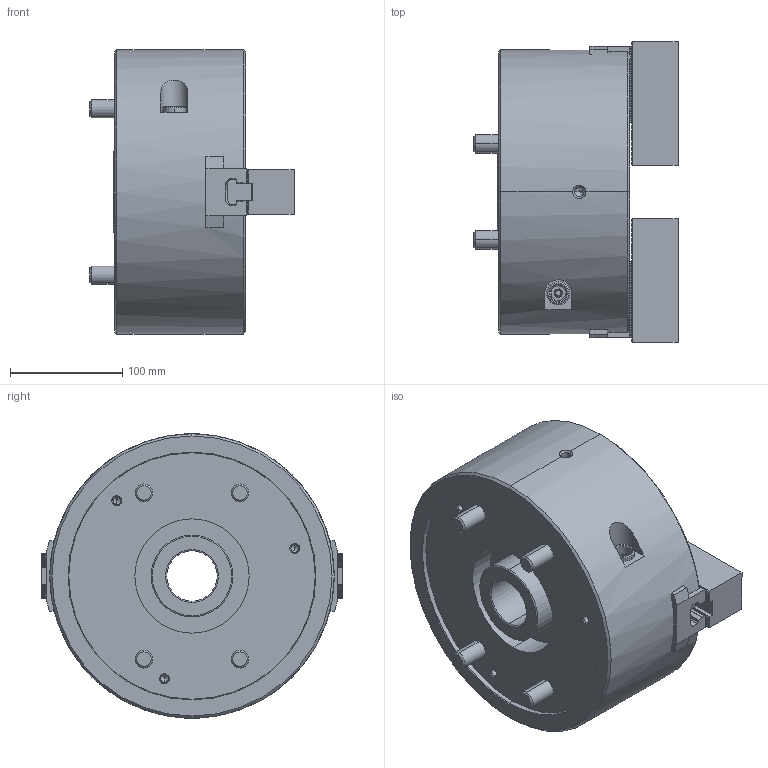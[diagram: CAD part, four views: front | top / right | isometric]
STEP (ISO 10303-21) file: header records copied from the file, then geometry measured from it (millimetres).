
FILE_DESCRIPTION (( 'STEP AP214' ), '1' );
FILE_NAME ('BLT210_UC.STEP', '2019-12-19T06:24:57', ( '' ), ( '' ), 'SwSTEP 2.0', 'SolidWorks 2017', '' );
FILE_SCHEMA (( 'AUTOMOTIVE_DESIGN' ));
Length unit declared in the file: millimetre
Products named in the file (5): 結合; 0030112030; 61P314663_ソフトジョー; 61P417262; BLT210_UC
Assembly tree (9 placements, depth 2):
  BLT210_UC
    61P417262  x2
    61P314663_ソフトジョー  x2
    0030112030  x4
    結合
Bounding box: 182.2 x 267.89 x 254 mm (x, y, z)
Volume: 5723824.9 mm3; surface area: 342394.6 mm2
Topology: 9 solids, 9 shells, 2153 faces, 5986 edges, 3874 vertices
Faces by surface type: plane 1790, cylinder 160, cone 149, torus 54
Entity records: 49814 total; most frequent: CARTESIAN_POINT 9802, ORIENTED_EDGE 8544, DIRECTION 7775, EDGE_CURVE 4272, LINE 3657, VECTOR 3657, VERTEX_POINT 2773, AXIS2_PLACEMENT_3D 2059
